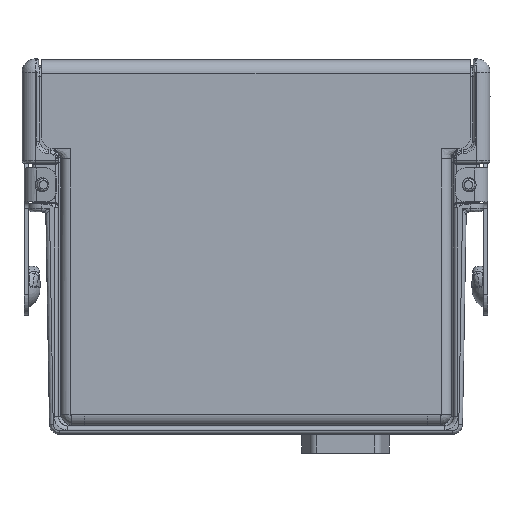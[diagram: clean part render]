
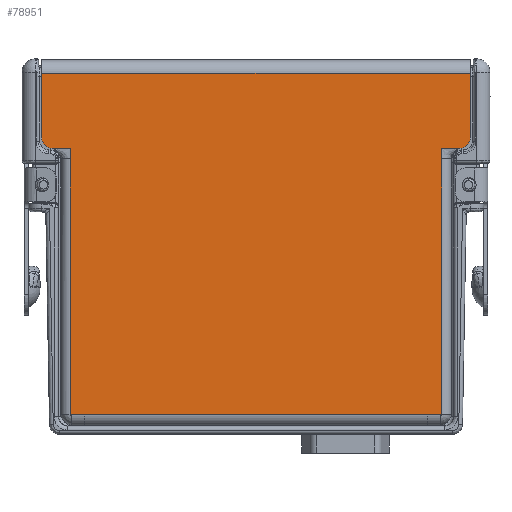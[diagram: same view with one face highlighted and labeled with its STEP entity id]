
A CAD part, left-side view. The second image highlights one B-rep face of the part: STEP entity #78951.
In plain terms, the highlighted planar face has unit normal (-1, 0, 0).
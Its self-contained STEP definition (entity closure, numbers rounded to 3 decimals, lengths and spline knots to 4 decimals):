
#19768=DIRECTION('',(0.,-1.,0.));
#19769=VECTOR('',#19768,3.179);
#19770=CARTESIAN_POINT('',(-0.4475,1.5895,2.676));
#19771=LINE('',#19770,#19769);
#19864=CARTESIAN_POINT('',(-0.4475,1.5095,2.2));
#19865=DIRECTION('',(-1.,0.,0.));
#19866=DIRECTION('',(0.,1.,0.));
#19867=AXIS2_PLACEMENT_3D('',#19864,#19865,#19866);
#19869=DIRECTION('',(0.,-1.,0.));
#19870=VECTOR('',#19869,0.133);
#19871=CARTESIAN_POINT('',(-0.4475,1.5095,2.12));
#19872=LINE('',#19871,#19870);
#19881=DIRECTION('',(0.,0.,-1.));
#19882=VECTOR('',#19881,0.476);
#19883=CARTESIAN_POINT('',(-0.4475,1.5895,2.676));
#19884=LINE('',#19883,#19882);
#19885=DIRECTION('',(0.,0.,1.));
#19886=VECTOR('',#19885,0.476);
#19887=CARTESIAN_POINT('',(-0.4475,-1.5895,2.2));
#19888=LINE('',#19887,#19886);
#19889=DIRECTION('',(0.,0.,1.));
#19890=VECTOR('',#19889,0.079);
#19891=CARTESIAN_POINT('',(-0.4475,-1.3765,2.041));
#19892=LINE('',#19891,#19890);
#19893=DIRECTION('',(0.,-1.,0.));
#19894=VECTOR('',#19893,0.105);
#19895=CARTESIAN_POINT('',(-0.4475,-1.2715,0.146));
#19896=LINE('',#19895,#19894);
#19897=DIRECTION('',(0.,-1.,0.));
#19898=VECTOR('',#19897,0.105);
#19899=CARTESIAN_POINT('',(-0.4475,1.3765,0.146));
#19900=LINE('',#19899,#19898);
#19901=DIRECTION('',(0.,0.,1.));
#19902=VECTOR('',#19901,0.079);
#19903=CARTESIAN_POINT('',(-0.4475,1.3765,2.041));
#19904=LINE('',#19903,#19902);
#19922=CARTESIAN_POINT('',(-0.4475,-1.5095,2.2));
#19923=DIRECTION('',(-1.,0.,0.));
#19924=DIRECTION('',(0.,0.,-1.));
#19925=AXIS2_PLACEMENT_3D('',#19922,#19923,#19924);
#19935=DIRECTION('',(0.,-1.,0.));
#19936=VECTOR('',#19935,0.133);
#19937=CARTESIAN_POINT('',(-0.4475,-1.3765,2.12));
#19938=LINE('',#19937,#19936);
#19970=DIRECTION('',(0.,0.,1.));
#19971=VECTOR('',#19970,1.895);
#19972=CARTESIAN_POINT('',(-0.4475,-1.3765,0.146));
#19973=LINE('',#19972,#19971);
#20161=DIRECTION('',(0.,-1.,0.));
#20162=VECTOR('',#20161,2.543);
#20163=CARTESIAN_POINT('',(-0.4475,1.2715,0.146));
#20164=LINE('',#20163,#20162);
#20607=DIRECTION('',(0.,0.,1.));
#20608=VECTOR('',#20607,1.895);
#20609=CARTESIAN_POINT('',(-0.4475,1.3765,0.146));
#20610=LINE('',#20609,#20608);
#52740=CARTESIAN_POINT('',(-0.4475,-1.5895,2.676));
#52741=VERTEX_POINT('',#52740);
#52742=CARTESIAN_POINT('',(-0.4475,1.5895,2.676));
#52743=VERTEX_POINT('',#52742);
#52772=CARTESIAN_POINT('',(-0.4475,1.2715,0.146));
#52773=CARTESIAN_POINT('',(-0.4475,-1.2715,0.146));
#52774=VERTEX_POINT('',#52772);
#52775=VERTEX_POINT('',#52773);
#52784=CARTESIAN_POINT('',(-0.4475,-1.3765,0.146));
#52785=VERTEX_POINT('',#52784);
#52796=CARTESIAN_POINT('',(-0.4475,1.3765,0.146));
#52797=VERTEX_POINT('',#52796);
#52845=CARTESIAN_POINT('',(-0.4475,1.5095,2.12));
#52847=VERTEX_POINT('',#52845);
#52850=CARTESIAN_POINT('',(-0.4475,1.5895,2.2));
#52851=VERTEX_POINT('',#52850);
#52853=CARTESIAN_POINT('',(-0.4475,-1.5895,2.2));
#52855=VERTEX_POINT('',#52853);
#52858=CARTESIAN_POINT('',(-0.4475,-1.5095,2.12));
#52859=VERTEX_POINT('',#52858);
#52872=CARTESIAN_POINT('',(-0.4475,-1.3765,2.041));
#52873=VERTEX_POINT('',#52872);
#52876=CARTESIAN_POINT('',(-0.4475,-1.3765,2.12));
#52877=VERTEX_POINT('',#52876);
#52884=CARTESIAN_POINT('',(-0.4475,1.3765,2.041));
#52885=CARTESIAN_POINT('',(-0.4475,1.3765,2.12));
#52886=VERTEX_POINT('',#52884);
#52887=VERTEX_POINT('',#52885);
#78919=CARTESIAN_POINT('',(-0.4475,0.,1.421));
#78920=DIRECTION('',(-1.,0.,0.));
#78921=DIRECTION('',(0.,1.,0.));
#78922=AXIS2_PLACEMENT_3D('',#78919,#78920,#78921);
#78923=PLANE('',#78922);
#78924=ORIENTED_EDGE('',*,*,#78900,.F.);
#78926=ORIENTED_EDGE('',*,*,#78925,.F.);
#78927=ORIENTED_EDGE('',*,*,#78784,.T.);
#78929=ORIENTED_EDGE('',*,*,#78928,.F.);
#78931=ORIENTED_EDGE('',*,*,#78930,.F.);
#78933=ORIENTED_EDGE('',*,*,#78932,.F.);
#78935=ORIENTED_EDGE('',*,*,#78934,.F.);
#78937=ORIENTED_EDGE('',*,*,#78936,.F.);
#78939=ORIENTED_EDGE('',*,*,#78938,.F.);
#78941=ORIENTED_EDGE('',*,*,#78940,.F.);
#78943=ORIENTED_EDGE('',*,*,#78942,.F.);
#78945=ORIENTED_EDGE('',*,*,#78944,.T.);
#78947=ORIENTED_EDGE('',*,*,#78946,.T.);
#78948=ORIENTED_EDGE('',*,*,#78911,.F.);
#78949=EDGE_LOOP('',(#78924,#78926,#78927,#78929,#78931,#78933,#78935,#78937,
#78939,#78941,#78943,#78945,#78947,#78948));
#78950=FACE_OUTER_BOUND('',#78949,.F.);
#78951=ADVANCED_FACE('',(#78950),#78923,.T.);
#19868=CIRCLE('',#19867,0.08);
#19926=CIRCLE('',#19925,0.08);
#78784=EDGE_CURVE('',#52743,#52741,#19771,.T.);
#78900=EDGE_CURVE('',#52851,#52847,#19868,.T.);
#78911=EDGE_CURVE('',#52847,#52887,#19872,.T.);
#78925=EDGE_CURVE('',#52743,#52851,#19884,.T.);
#78928=EDGE_CURVE('',#52855,#52741,#19888,.T.);
#78930=EDGE_CURVE('',#52859,#52855,#19926,.T.);
#78932=EDGE_CURVE('',#52877,#52859,#19938,.T.);
#78934=EDGE_CURVE('',#52873,#52877,#19892,.T.);
#78936=EDGE_CURVE('',#52785,#52873,#19973,.T.);
#78938=EDGE_CURVE('',#52775,#52785,#19896,.T.);
#78940=EDGE_CURVE('',#52774,#52775,#20164,.T.);
#78942=EDGE_CURVE('',#52797,#52774,#19900,.T.);
#78944=EDGE_CURVE('',#52797,#52886,#20610,.T.);
#78946=EDGE_CURVE('',#52886,#52887,#19904,.T.);
